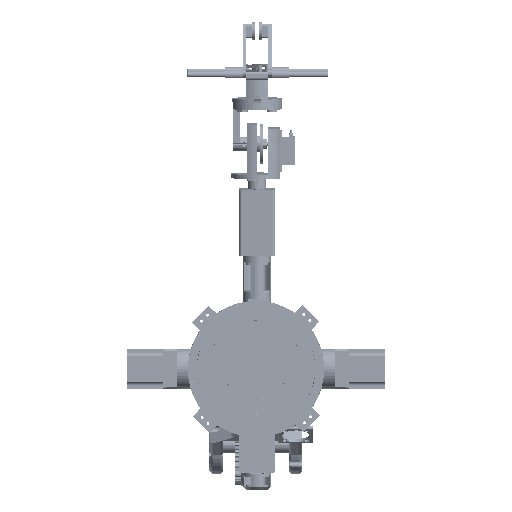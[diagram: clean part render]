
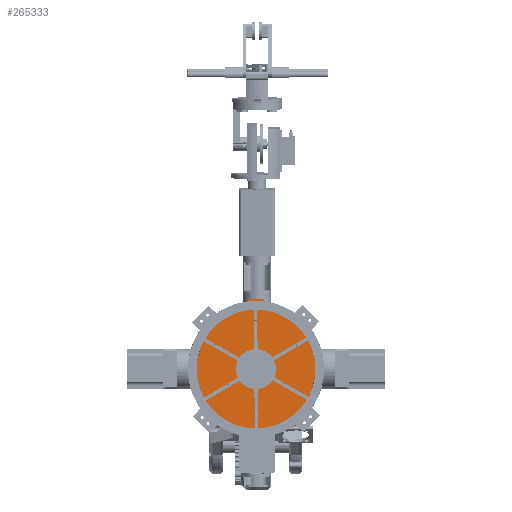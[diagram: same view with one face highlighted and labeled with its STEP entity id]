
A CAD part, front view. The second image highlights one B-rep face of the part: STEP entity #265333.
In plain terms, the highlighted planar face has unit normal (0, -1, 0).
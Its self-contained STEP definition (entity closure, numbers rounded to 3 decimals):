
#6541 = DIRECTION ( 'NONE',  ( 0., -1., 0. ) ) ;
#16631 = LINE ( 'NONE', #360171, #364207 ) ;
#19907 = CIRCLE ( 'NONE', #132099, 99.829 ) ;
#26153 = CARTESIAN_POINT ( 'NONE',  ( -10.229, -4., 98.801 ) ) ;
#28121 = VERTEX_POINT ( 'NONE', #72542 ) ;
#28278 = EDGE_LOOP ( 'NONE', ( #349348, #369902, #312367, #53150, #272505, #76967, #151133 ) ) ;
#28452 = CARTESIAN_POINT ( 'NONE',  ( 0., -4., 10. ) ) ;
#34686 = DIRECTION ( 'NONE',  ( 0., 0., -1. ) ) ;
#38121 = CARTESIAN_POINT ( 'NONE',  ( 0., -4., 0. ) ) ;
#38261 = EDGE_CURVE ( 'NONE', #101620, #28121, #19907, .T. ) ;
#53150 = ORIENTED_EDGE ( 'NONE', *, *, #109954, .F. ) ;
#55311 = EDGE_CURVE ( 'NONE', #89014, #391369, #303384, .T. ) ;
#64854 = EDGE_CURVE ( 'NONE', #203568, #390879, #285836, .T. ) ;
#67490 = DIRECTION ( 'NONE',  ( 0., 0., -1. ) ) ;
#72542 = CARTESIAN_POINT ( 'NONE',  ( 10.281, -4., 99.298 ) ) ;
#72870 = CIRCLE ( 'NONE', #337342, 0.5 ) ;
#74694 = DIRECTION ( 'NONE',  ( 0., 0., -1. ) ) ;
#76967 = ORIENTED_EDGE ( 'NONE', *, *, #236518, .F. ) ;
#88344 = CIRCLE ( 'NONE', #372578, 99.829 ) ;
#89014 = VERTEX_POINT ( 'NONE', #273348 ) ;
#94708 = DIRECTION ( 'NONE',  ( 0., -1., 0. ) ) ;
#101620 = VERTEX_POINT ( 'NONE', #146703 ) ;
#109393 = AXIS2_PLACEMENT_3D ( 'NONE', #200899, #6541, #74694 ) ;
#109954 = EDGE_CURVE ( 'NONE', #203568, #101620, #88344, .T. ) ;
#119675 = CIRCLE ( 'NONE', #364286, 10. ) ;
#132099 = AXIS2_PLACEMENT_3D ( 'NONE', #243834, #270781, #337039 ) ;
#146703 = CARTESIAN_POINT ( 'NONE',  ( 0., -4., 99.829 ) ) ;
#151133 = ORIENTED_EDGE ( 'NONE', *, *, #402164, .T. ) ;
#152331 = DIRECTION ( 'NONE',  ( 0., -1., 0. ) ) ;
#166310 = DIRECTION ( 'NONE',  ( 0., 1., 0. ) ) ;
#170392 = DIRECTION ( 'NONE',  ( 0., 0., -1. ) ) ;
#180153 = EDGE_CURVE ( 'NONE', #391369, #28121, #72870, .T. ) ;
#191943 = FACE_BOUND ( 'NONE', #407358, .T. ) ;
#200899 = CARTESIAN_POINT ( 'NONE',  ( 0., -4., 0. ) ) ;
#203568 = VERTEX_POINT ( 'NONE', #253711 ) ;
#206486 = AXIS2_PLACEMENT_3D ( 'NONE', #349247, #94708, #34686 ) ;
#209363 = VERTEX_POINT ( 'NONE', #362353 ) ;
#212232 = DIRECTION ( 'NONE',  ( 0., 0., -1. ) ) ;
#212721 = DIRECTION ( 'NONE',  ( 0., 0., -1. ) ) ;
#216473 = ORIENTED_EDGE ( 'NONE', *, *, #263863, .F. ) ;
#220661 = DIRECTION ( 'NONE',  ( 0., -1., 0. ) ) ;
#224611 = DIRECTION ( 'NONE',  ( 0., 0., -1. ) ) ;
#236518 = EDGE_CURVE ( 'NONE', #402578, #390879, #16631, .T. ) ;
#243834 = CARTESIAN_POINT ( 'NONE',  ( 0., -4., 0. ) ) ;
#245353 = CARTESIAN_POINT ( 'NONE',  ( 10.729, -4., 0. ) ) ;
#251457 = CARTESIAN_POINT ( 'NONE',  ( -10.729, -4., 98.801 ) ) ;
#253711 = CARTESIAN_POINT ( 'NONE',  ( -10.281, -4., 99.298 ) ) ;
#253999 = PLANE ( 'NONE',  #206486 ) ;
#262206 = VERTEX_POINT ( 'NONE', #28452 ) ;
#263863 = EDGE_CURVE ( 'NONE', #262206, #209363, #119675, .T. ) ;
#265333 = ADVANCED_FACE ( 'NONE', ( #341149, #191943 ), #253999, .T. ) ;
#270781 = DIRECTION ( 'NONE',  ( 0., 1., 0. ) ) ;
#272505 = ORIENTED_EDGE ( 'NONE', *, *, #64854, .T. ) ;
#273348 = CARTESIAN_POINT ( 'NONE',  ( 10.729, -4., 96.405 ) ) ;
#273668 = EDGE_CURVE ( 'NONE', #209363, #262206, #290931, .T. ) ;
#278872 = DIRECTION ( 'NONE',  ( 0., -1., 0. ) ) ;
#285836 = CIRCLE ( 'NONE', #338806, 0.5 ) ;
#290931 = CIRCLE ( 'NONE', #376984, 10. ) ;
#303384 = LINE ( 'NONE', #245353, #373361 ) ;
#312367 = ORIENTED_EDGE ( 'NONE', *, *, #38261, .F. ) ;
#321284 = ORIENTED_EDGE ( 'NONE', *, *, #273668, .F. ) ;
#329161 = DIRECTION ( 'NONE',  ( 0., 0., 1. ) ) ;
#334437 = CARTESIAN_POINT ( 'NONE',  ( 0., -4., 0. ) ) ;
#337039 = DIRECTION ( 'NONE',  ( 0., 0., -1. ) ) ;
#337342 = AXIS2_PLACEMENT_3D ( 'NONE', #352998, #220661, #67490 ) ;
#338806 = AXIS2_PLACEMENT_3D ( 'NONE', #26153, #152331, #224611 ) ;
#341149 = FACE_OUTER_BOUND ( 'NONE', #28278, .T. ) ;
#349247 = CARTESIAN_POINT ( 'NONE',  ( 0., -4., 0. ) ) ;
#349348 = ORIENTED_EDGE ( 'NONE', *, *, #55311, .T. ) ;
#352998 = CARTESIAN_POINT ( 'NONE',  ( 10.229, -4., 98.801 ) ) ;
#358365 = CARTESIAN_POINT ( 'NONE',  ( 10.729, -4., 98.801 ) ) ;
#360171 = CARTESIAN_POINT ( 'NONE',  ( -10.729, -4., 0. ) ) ;
#362353 = CARTESIAN_POINT ( 'NONE',  ( 0., -4., -10. ) ) ;
#364207 = VECTOR ( 'NONE', #329161, 1000. ) ;
#364286 = AXIS2_PLACEMENT_3D ( 'NONE', #334437, #400568, #212232 ) ;
#369902 = ORIENTED_EDGE ( 'NONE', *, *, #180153, .T. ) ;
#370492 = CARTESIAN_POINT ( 'NONE',  ( -10.729, -4., 96.405 ) ) ;
#371634 = DIRECTION ( 'NONE',  ( 0., 0., 1. ) ) ;
#372578 = AXIS2_PLACEMENT_3D ( 'NONE', #38121, #166310, #170392 ) ;
#373361 = VECTOR ( 'NONE', #371634, 1000. ) ;
#374103 = CARTESIAN_POINT ( 'NONE',  ( 0., -4., 0. ) ) ;
#376984 = AXIS2_PLACEMENT_3D ( 'NONE', #374103, #278872, #212721 ) ;
#390879 = VERTEX_POINT ( 'NONE', #251457 ) ;
#391369 = VERTEX_POINT ( 'NONE', #358365 ) ;
#400167 = CIRCLE ( 'NONE', #109393, 97. ) ;
#400568 = DIRECTION ( 'NONE',  ( 0., -1., 0. ) ) ;
#402164 = EDGE_CURVE ( 'NONE', #402578, #89014, #400167, .T. ) ;
#402578 = VERTEX_POINT ( 'NONE', #370492 ) ;
#407358 = EDGE_LOOP ( 'NONE', ( #216473, #321284 ) ) ;
